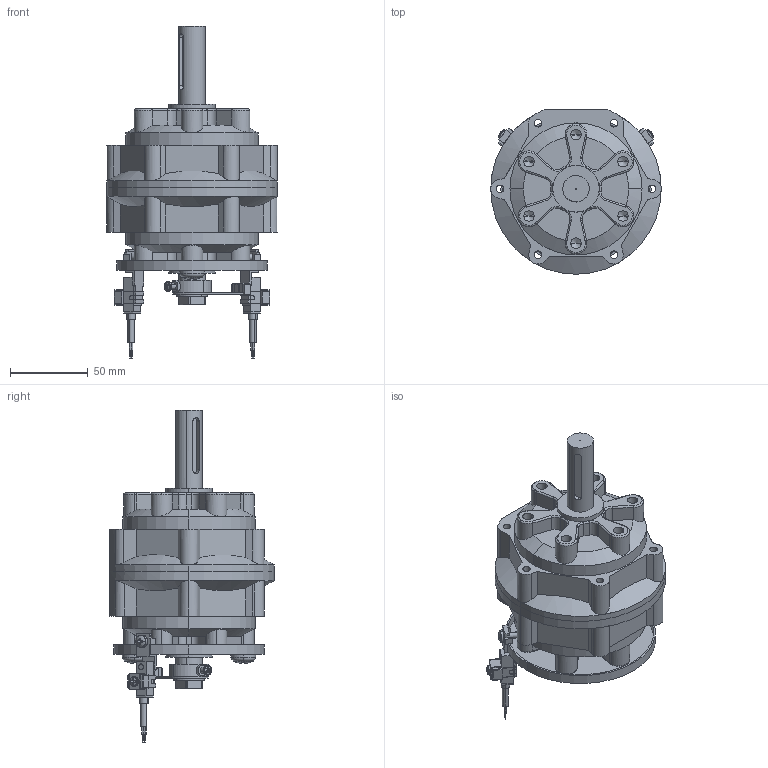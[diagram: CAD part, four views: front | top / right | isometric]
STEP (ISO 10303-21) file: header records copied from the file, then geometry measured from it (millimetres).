
FILE_DESCRIPTION (( 'STEP AP203' ), '1' );
FILE_NAME ('PRN150#-#-#-#-FM-#.STEP', '2016-01-14T16:43:00', ( '' ), ( '' ), 'SwSTEP 2.0', 'SolidWorks 2014', '' );
FILE_SCHEMA (( 'CONFIG_CONTROL_DESIGN' ));
Length unit declared in the file: millimetre
Products named in the file (18): 150-側鐵片; 零件5; 150-50-FM; 150-圓軸; 零件1-150; mark-PRN150; M4螺帽; 150-1; 150-FM; 150-板金1; PRN150 (3); PRN150 (1); ISO 7045 - M8 x 20-十字; PRN150 (2); M4螺絲; 150-M4螺絲; PRN150#-#-#-#-FM-#; 150-感應開關-板金1
Assembly tree (19 placements, depth 3):
  PRN150#-#-#-#-FM-#
    PRN150 (2)
    PRN150 (1)
    PRN150 (3)
    mark-PRN150
    零件1-150
    150-感應開關-板金1  x2
      150-1
      150-側鐵片
      150-M4螺絲
      150-板金1
    150-FM
      零件5
      M4螺絲
      M4螺帽
      150-50-FM
      150-圓軸
    ISO 7045 - M8 x 20-十字  x2
Bounding box: 110 x 106.11 x 214.2 mm (x, y, z)
Volume: 656419 mm3; surface area: 127721 mm2
Topology: 34 solids, 34 shells, 1063 faces, 2654 edges, 1653 vertices
Faces by surface type: plane 501, cylinder 339, cone 104, torus 89, sphere 22, bspline 8
Entity records: 27959 total; most frequent: CARTESIAN_POINT 5761, DIRECTION 4413, ORIENTED_EDGE 4108, EDGE_CURVE 2054, AXIS2_PLACEMENT_3D 1682, VERTEX_POINT 1304, VECTOR 1049, LINE 1049
